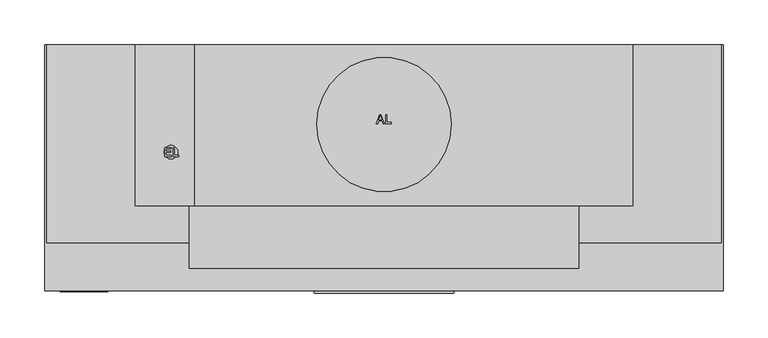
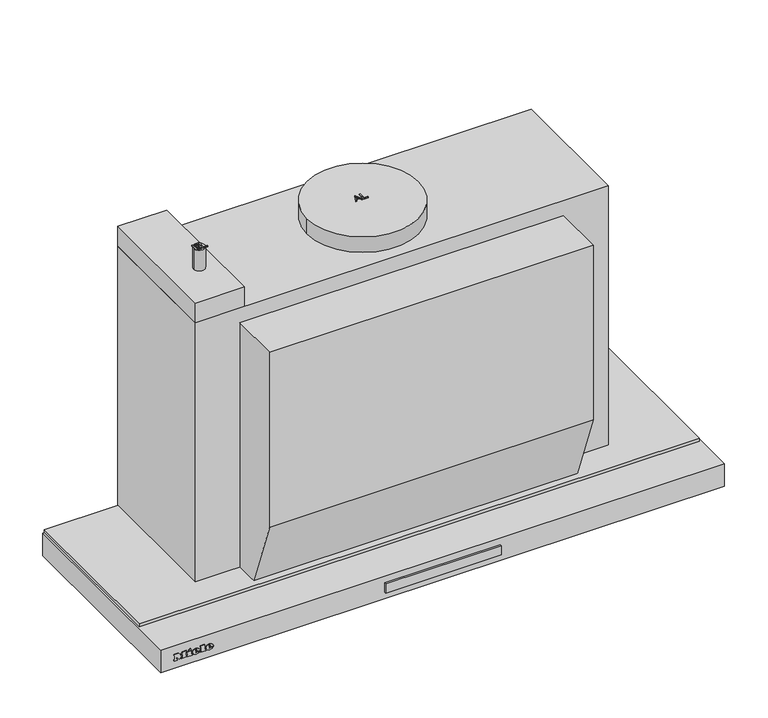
"""IFC4 building model written with IfcOpenShell, lengths in millimetres: proxy geometry, 11878520_USA_DAS4720_EDST : 28S4720S_USA_11878520_DAS4720_EDST."""

import ifcopenshell
import ifcopenshell.guid

model = None  # the IFC model being written
_history = None  # IfcOwnerHistory: only IFC2X3 demands one
_inside = {}  # id of a spatial element -> (the spatial element, [elements in it])
_under = {}  # id of a project, library or spatial element -> (it, [spatial elements below it])
_declared = {}  # id of a project -> (the project, [libraries it declares])
_typed = {}  # id of a type object -> (the type object, [elements of that type])
_made_of = {}  # id of a material, layer set ... -> (it, [elements and type objects made of it])


def new_model(schema):
    """Start an empty IFC model of exactly this schema.

    Asked for "IFC4X3", IfcOpenShell would pick the latest addendum, in which some entities
    have other attributes; the version numbers below select the first issue.
    IFC2X3 requires an IfcOwnerHistory on every rooted entity: one is made here for all.
    """
    global model, _history
    if schema == "IFC4X3":
        model = ifcopenshell.file(schema_version=(4, 3, 0, 0))
    else:
        model = ifcopenshell.file(schema=schema)
    _inside.clear()
    _under.clear()
    _declared.clear()
    _typed.clear()
    _made_of.clear()
    _history = None
    if model.schema == "IFC2X3":
        org = make("IfcOrganization", Name="unknown")
        user = make(
            "IfcPersonAndOrganization",
            ThePerson=make("IfcPerson", FamilyName="unknown"),
            TheOrganization=org,
        )
        app = make(
            "IfcApplication",
            ApplicationDeveloper=org,
            Version="unknown",
            ApplicationFullName="unknown",
            ApplicationIdentifier="unknown",
        )
        _history = make(
            "IfcOwnerHistory",
            OwningUser=user,
            OwningApplication=app,
            ChangeAction="ADDED",
            CreationDate=0,
        )
    return model


def make(cls, **values):
    """One entity of the class cls with the attributes given. An attribute that is None is left unset."""
    return model.create_entity(
        cls, **{name: value for name, value in values.items() if value is not None}
    )


def rooted(cls, **values):
    """An entity with a GlobalId (a new one), such as an element, a storey or a relation."""
    return make(cls, GlobalId=ifcopenshell.guid.new(), OwnerHistory=_history, **values)


def si_unit(unit_type, name, prefix=None):
    """IfcSIUnit, for example si_unit("LENGTHUNIT", "METRE", prefix="MILLI")."""
    return make("IfcSIUnit", UnitType=unit_type, Prefix=prefix, Name=name)


def assignment(units):
    """IfcUnitAssignment: the units of a project."""
    return None if units is None else make("IfcUnitAssignment", Units=units)


def point(xyz):
    """IfcCartesianPoint."""
    return None if xyz is None else make("IfcCartesianPoint", Coordinates=xyz)


def direction(xyz):
    """IfcDirection."""
    return None if xyz is None else make("IfcDirection", DirectionRatios=xyz)


def frame(location, z_axis=None, x_axis=None):
    """IfcAxis2Placement3D, a coordinate frame: its origin and axes. An axis left out is left unset."""
    return make(
        "IfcAxis2Placement3D",
        Location=point(location),
        Axis=direction(z_axis),
        RefDirection=direction(x_axis),
    )


def frame_2d(location, x_axis=None):
    """IfcAxis2Placement2D, a coordinate frame in the plane: its origin and x axis."""
    return make(
        "IfcAxis2Placement2D", Location=point(location), RefDirection=direction(x_axis)
    )


def origin():
    """The frame at (0, 0, 0) with its axes left unset."""
    return frame((0.0, 0.0, 0.0))


def origin_with_axes():
    """The frame at (0, 0, 0) with the z axis (0, 0, 1) and the x axis (1, 0, 0) written out."""
    return frame((0.0, 0.0, 0.0), z_axis=(0.0, 0.0, 1.0), x_axis=(1.0, 0.0, 0.0))


def place(relative_to, where):
    """IfcLocalPlacement: puts the frame where relative to a parent placement (None: the world)."""
    return make(
        "IfcLocalPlacement", PlacementRelTo=relative_to, RelativePlacement=where
    )


def context(
    kind, dimensions, precision=None, world=None, true_north=None, identifier=None
):
    """IfcGeometricRepresentationContext, for example the 3D "Model" context."""
    return make(
        "IfcGeometricRepresentationContext",
        ContextIdentifier=identifier,
        ContextType=kind,
        CoordinateSpaceDimension=dimensions,
        Precision=precision,
        WorldCoordinateSystem=world,
        TrueNorth=true_north,
    )


def project(units=None, contexts=None):
    """IfcProject with its units and contexts."""
    return rooted(
        "IfcProject",
        Name="project",
        RepresentationContexts=contexts,
        UnitsInContext=assignment(units),
    )


def spatial(cls, under=None, at=None, **own):
    """A site, building, storey or space (cls), placed at a placement, below another one or the project."""
    s = rooted(cls, ObjectPlacement=at, **own)
    if under is not None:
        _under.setdefault(under.id(), (under, []))[1].append(s)
    return s


def polyline(points):
    """IfcPolyline through the points."""
    return make("IfcPolyline", Points=[point(p) for p in points])


def circle_curve(where, radius):
    """IfcCircle in the frame where."""
    return make("IfcCircle", Position=where, Radius=radius)


def ellipse_curve(where, semi_axis1, semi_axis2):
    """IfcEllipse in the frame where."""
    return make(
        "IfcEllipse", Position=where, SemiAxis1=semi_axis1, SemiAxis2=semi_axis2
    )


def trimmed(basis, trim1, trim2, sense, master):
    """IfcTrimmedCurve: the piece of a basis curve between two trims."""
    return make(
        "IfcTrimmedCurve",
        BasisCurve=basis,
        Trim1=trim1,
        Trim2=trim2,
        SenseAgreement=sense,
        MasterRepresentation=master,
    )


def segment(curve, same_sense, transition):
    """IfcCompositeCurveSegment."""
    return make(
        "IfcCompositeCurveSegment",
        Transition=transition,
        SameSense=same_sense,
        ParentCurve=curve,
    )


def composite_curve(segments, self_intersect=None):
    """IfcCompositeCurve: segments joined end to end."""
    return make("IfcCompositeCurve", Segments=segments, SelfIntersect=self_intersect)


def outline(outer, holes=None, kind="AREA"):
    """IfcArbitraryClosedProfileDef: a profile drawn as a closed curve; with holes, ...WithVoids."""
    if holes is None:
        return make("IfcArbitraryClosedProfileDef", ProfileType=kind, OuterCurve=outer)
    return make(
        "IfcArbitraryProfileDefWithVoids",
        ProfileType=kind,
        OuterCurve=outer,
        InnerCurves=holes,
    )


def extrude(swept, where, along, depth):
    """IfcExtrudedAreaSolid: the profile swept, set in the frame where, extruded along a direction by depth."""
    return make(
        "IfcExtrudedAreaSolid",
        SweptArea=swept,
        Position=where,
        ExtrudedDirection=direction(along),
        Depth=depth,
    )


def faces_of(points, faces, orient=None, outer=None):
    """IfcFace entities. A face is a list of loops; a loop is a list of indices into points, from 0.

    orient and outer hold one flag for each loop. By default every Orientation is true, the
    first loop of a face is its IfcFaceOuterBound and the others are IfcFaceBound.
    """
    made = []
    for i, loops in enumerate(faces):
        bounds = []
        for j, loop in enumerate(loops):
            is_outer = j == 0 if outer is None else outer[i][j]
            bounds.append(
                make(
                    "IfcFaceOuterBound" if is_outer else "IfcFaceBound",
                    Bound=make("IfcPolyLoop", Polygon=[points[k] for k in loop]),
                    Orientation=True if orient is None else orient[i][j],
                )
            )
        made.append(make("IfcFace", Bounds=bounds))
    return made


def faceted_brep(points, faces, orient=None, outer=None, voids=None):
    """IfcFacetedBrep: a solid bounded by flat faces; with voids (closed shells), ...WithVoids."""
    shared = [point(p) for p in points]
    hull = make("IfcClosedShell", CfsFaces=faces_of(shared, faces, orient, outer))
    if voids is None:
        return make("IfcFacetedBrep", Outer=hull)
    return make(
        "IfcFacetedBrepWithVoids",
        Outer=hull,
        Voids=[
            make(cls, CfsFaces=faces_of(shared, fs, o, b)) for cls, fs, o, b in voids
        ],
    )


def shape(context_of_items, identifier, shape_type, items):
    """IfcShapeRepresentation: the items that make up one representation, for example the "Body"."""
    return make(
        "IfcShapeRepresentation",
        ContextOfItems=context_of_items,
        RepresentationIdentifier=identifier,
        RepresentationType=shape_type,
        Items=items,
    )


def source(mapping_origin, context_of_items, identifier, shape_type, items):
    """IfcRepresentationMap: a shape defined once, which mapped items show again and again."""
    return make(
        "IfcRepresentationMap",
        MappingOrigin=mapping_origin,
        MappedRepresentation=shape(context_of_items, identifier, shape_type, items),
    )


def transform(
    local_origin,
    x_axis=None,
    y_axis=None,
    z_axis=None,
    scale=None,
    scale2=None,
    scale3=None,
    uniform=True,
):
    """IfcCartesianTransformationOperator3D, or its non-uniform kind. x_axis, y_axis, z_axis: its Axis1, 2, 3."""
    if uniform:
        return make(
            "IfcCartesianTransformationOperator3D",
            Axis1=direction(x_axis),
            Axis2=direction(y_axis),
            LocalOrigin=point(local_origin),
            Scale=scale,
            Axis3=direction(z_axis),
        )
    return make(
        "IfcCartesianTransformationOperator3DnonUniform",
        Axis1=direction(x_axis),
        Axis2=direction(y_axis),
        LocalOrigin=point(local_origin),
        Scale=scale,
        Axis3=direction(z_axis),
        Scale2=scale2,
        Scale3=scale3,
    )


def mapped(mapping_source, mapping_target):
    """IfcMappedItem: shows the shape of a source again, moved by a transform."""
    return make(
        "IfcMappedItem", MappingSource=mapping_source, MappingTarget=mapping_target
    )


def made_of(thing, what):
    """Note that an element or type object is made of a material, layer set ...; save() writes the relation."""
    if what is not None:
        _made_of.setdefault(what.id(), (what, []))[1].append(thing)
    return thing


def element(
    cls,
    number,
    at=None,
    inside=None,
    cuts=None,
    type_object=None,
    material=None,
    context=None,
    identifier="Body",
    shape_type=None,
    held_by="IfcProductDefinitionShape",
    body=None,
    shapes=None,
    **own,
):
    """One element of the class cls, such as IfcWall. Its Tag is "e" and its number.

    at: its placement. inside: the storey or other place that contains it. cuts: it is an
    opening in that element (IfcRelVoidsElement). A single representation is given by context,
    identifier, shape_type and body (its items); several are given by shapes. held_by: the class
    of the entity that holds the representations. save() writes the other relations.
    """
    e = rooted(cls, Tag="e%d" % number, ObjectPlacement=at, **own)
    if body is not None:
        shapes = [shape(context, identifier, shape_type, body)]
    if shapes is not None:
        e.Representation = make(held_by, Representations=shapes)
    if inside is not None:
        _inside.setdefault(inside.id(), (inside, []))[1].append(e)
    if cuts is not None:
        rooted(
            "IfcRelVoidsElement", RelatingBuildingElement=cuts, RelatedOpeningElement=e
        )
    if type_object is not None:
        _typed.setdefault(type_object.id(), (type_object, []))[1].append(e)
    return made_of(e, material)


def aggregate(whole, parts):
    """IfcRelAggregates: a whole, such as a stair, and the parts it consists of."""
    return rooted("IfcRelAggregates", RelatingObject=whole, RelatedObjects=parts)


def save(model, path):
    """Write the relations noted so far, then the file.

    IfcRelAggregates (storeys below a building ...), IfcRelContainedInSpatialStructure (elements
    in a storey), IfcRelDefinesByType, IfcRelAssociatesMaterial and IfcRelDeclares: one each for
    every whole, place, type object, material and project.
    """
    for whole, parts in _under.values():
        aggregate(whole, parts)
    for where, things in _inside.values():
        rooted(
            "IfcRelContainedInSpatialStructure",
            RelatedElements=things,
            RelatingStructure=where,
        )
    for kind, things in _typed.values():
        rooted("IfcRelDefinesByType", RelatedObjects=things, RelatingType=kind)
    for what, things in _made_of.values():
        rooted("IfcRelAssociatesMaterial", RelatedObjects=things, RelatingMaterial=what)
    for by, libraries in _declared.values():
        rooted("IfcRelDeclares", RelatingContext=by, RelatedDefinitions=libraries)
    model.write(path)


def plane_surface(at):
    """IfcPlane: the flat surface through the origin of the frame at, square to its z axis."""
    return make("IfcPlane", Position=at)


def cylinder_surface(at, radius):
    """IfcCylindricalSurface: all points at the distance radius from the z axis of the frame at."""
    return make("IfcCylindricalSurface", Position=at, Radius=radius)


def revolved_surface(curve, axis_point, axis_direction):
    """IfcSurfaceOfRevolution: the curve turned about the line through axis_point along axis_direction."""
    return make(
        "IfcSurfaceOfRevolution",
        SweptCurve=make("IfcArbitraryOpenProfileDef", ProfileType="CURVE", Curve=curve),
        AxisPosition=make("IfcAxis1Placement", Location=point(axis_point), Axis=direction(axis_direction)),
    )


def extruded_surface(curve, direction_of_extrusion, depth):
    """IfcSurfaceOfLinearExtrusion: the curve pushed along a direction by depth."""
    return make(
        "IfcSurfaceOfLinearExtrusion",
        SweptCurve=make("IfcArbitraryOpenProfileDef", ProfileType="CURVE", Curve=curve),
        ExtrudedDirection=direction(direction_of_extrusion),
        Depth=depth,
    )


def advanced_brep(points, edges, surfaces, faces):
    """IfcAdvancedBrep: a solid bounded by faces that lie on surfaces and meet in shared edges.

    An edge is (start, end): straight between two places in points (the first is 0);
    or (start, end, curve); or (start, end, curve, False) where it runs against its curve.
    A face is (place in surfaces, loops), or (place, loops, False) where it looks against
    its surface's normal. A loop lists edges by number (the first is 1), with a minus sign
    where the edge is run from its end to its start. The first loop is the outer one.
    """
    corners = [point(p) for p in points]
    vertices = [make("IfcVertexPoint", VertexGeometry=c) for c in corners]
    made = []
    for start, end, *more in edges:
        made.append(
            make(
                "IfcEdgeCurve",
                EdgeStart=vertices[start],
                EdgeEnd=vertices[end],
                EdgeGeometry=more[0] if more else make("IfcPolyline", Points=[corners[start], corners[end]]),
                SameSense=more[1] if len(more) > 1 else True,
            )
        )
    hull = []
    for where, loops, *sense in faces:
        bounds = []
        for j, loop in enumerate(loops):
            ring = [make("IfcOrientedEdge", EdgeElement=made[abs(k) - 1], Orientation=k > 0) for k in loop]
            bounds.append(
                make(
                    "IfcFaceOuterBound" if j == 0 else "IfcFaceBound",
                    Bound=make("IfcEdgeLoop", EdgeList=ring),
                    Orientation=True,
                )
            )
        hull.append(make("IfcAdvancedFace", Bounds=bounds, FaceSurface=surfaces[where], SameSense=sense[0] if sense else True))
    return make("IfcAdvancedBrep", Outer=make("IfcClosedShell", CfsFaces=hull))


def specialty_equipment_79cfb4cb(model_context):
    return source(origin(), model_context, "Body", "SolidModel", [
        extrude(outline(polyline([(78.0, -275.0), (78.0, -277.3978707), (-78.0, -277.3978707), (-78.0, -275.0), (78.0, -275.0)])), frame((0.0, 0.0, -23.0389651), z_axis=(0.0, 0.0, 1.0), x_axis=(1.0, 0.0, 0.0)), (0.0, 0.0, 1.0), 13.3389155),
        advanced_brep(
        [(-314.4590019, -276.0, -18.7681017), (-314.4590019, -276.0, -17.8894017), (-308.6387019, -276.0, -17.8894017), (-318.7655019, -276.0, -17.8894017), (-316.3730019, -276.0, -20.8300017), (-308.7866019, -276.0, -18.7681017), (-311.4140019, -276.0, -18.7681017), (-313.4846019, -276.0, -19.7425017), (-314.4590019, -276.0, -16.7758017), (-314.4590019, -276.0, -15.8275017), (-312.9713019, -276.0, -15.8275017), (-312.9713019, -276.0, -16.7758017), (-314.4590019, -275.0, -18.7681017), (-313.4846019, -275.0, -19.7425017), (-311.4140019, -275.0, -18.7681017), (-308.7866019, -275.0, -18.7681017), (-316.3730019, -275.0, -20.8300017), (-318.7655019, -275.0, -17.8894017), (-308.6387019, -275.0, -17.8894017), (-314.4590019, -275.0, -17.8894017), (-314.4590019, -275.0, -16.7758017), (-312.9713019, -275.0, -16.7758017), (-312.9713019, -275.0, -15.8275017), (-314.4590019, -275.0, -15.8275017)],
        [
            (0, 1),
            (1, 2),
            (2, 3, ellipse_curve(frame((-313.7021019, -276.0, -17.8894017), z_axis=(0.0, -1.0, 0.0), x_axis=(-1.0, 0.0, 0.0)), 5.0634, 4.1847)),
            (3, 4, circle_curve(frame((-315.3985544, -276.0, -17.5936017), z_axis=(0.0, -1.0, 0.0), x_axis=(0.0, 0.0, -1.0)), 3.3799161)),
            (4, 5, circle_curve(frame((-313.8034638, -276.0, -15.2968017), z_axis=(0.0, -1.0, 0.0), x_axis=(0.0, 0.0, -1.0)), 6.1007236)),
            (5, 6),
            (6, 7, circle_curve(frame((-313.0593254, -276.0, -17.9590017), z_axis=(0.0, 1.0, 0.0), x_axis=(0.0, 0.0, -1.0)), 1.8335027)),
            (7, 0, circle_curve(frame((-313.4846019, -276.0, -18.7681017), z_axis=(0.0, 1.0, 0.0), x_axis=(0.0, 0.0, -1.0)), 0.9744)),
            (8, 9),
            (9, 10, circle_curve(frame((-313.7151519, -276.0, -15.8275017), z_axis=(0.0, 1.0, 0.0), x_axis=(0.0, 0.0, -1.0)), 0.74385)),
            (10, 11),
            (11, 8),
            (12, 13, circle_curve(frame((-313.4846019, -275.0, -18.7681017), z_axis=(0.0, -1.0, 0.0), x_axis=(0.0, 0.0, -1.0)), 0.9744)),
            (13, 14, circle_curve(frame((-313.0593254, -275.0, -17.9590017), z_axis=(0.0, -1.0, 0.0), x_axis=(0.0, 0.0, -1.0)), 1.8335027)),
            (14, 15),
            (15, 16, circle_curve(frame((-313.8034638, -275.0, -15.2968017), z_axis=(0.0, 1.0, 0.0), x_axis=(0.0, 0.0, -1.0)), 6.1007236)),
            (16, 17, circle_curve(frame((-315.3985544, -275.0, -17.5936017), z_axis=(0.0, 1.0, 0.0), x_axis=(0.0, 0.0, -1.0)), 3.3799161)),
            (17, 18, ellipse_curve(frame((-313.7021019, -275.0, -17.8894017), z_axis=(0.0, 1.0, 0.0), x_axis=(-1.0, 0.0, 0.0)), 5.0634, 4.1847)),
            (18, 19),
            (19, 12),
            (20, 21),
            (21, 22),
            (22, 23, circle_curve(frame((-313.7151519, -275.0, -15.8275017), z_axis=(0.0, -1.0, 0.0), x_axis=(0.0, 0.0, -1.0)), 0.74385)),
            (23, 20),
            (0, 12),
            (19, 1),
            (18, 2),
            (5, 15),
            (14, 6),
            (17, 3),
            (13, 7),
            (16, 4),
            (8, 20),
            (23, 9),
            (22, 10),
            (21, 11),
        ],
        [
            plane_surface(frame((-314.4590019, -276.0, -17.8894017), z_axis=(0.0, -1.0, 0.0), x_axis=(0.0, 0.0, 1.0))),
            plane_surface(frame((-314.4590019, -275.0, -17.8894017), z_axis=(0.0, 1.0, 0.0), x_axis=(0.0, 0.0, -1.0))),
            plane_surface(frame((-314.4590019, -276.0, -18.7681017), z_axis=(1.0, 0.0, 0.0), x_axis=(0.0, 1.0, 0.0))),
            plane_surface(frame((-314.4590019, -276.0, -17.8894017), z_axis=(0.0, 0.0, -1.0), x_axis=(0.0, 1.0, 0.0))),
            plane_surface(frame((-308.7866019, -276.0, -18.7681017), z_axis=(0.0, 0.0, 1.0), x_axis=(0.0, 1.0, 0.0))),
            extruded_surface(trimmed(ellipse_curve(frame((-313.7021019, -274.0, -17.8894017), z_axis=(0.0, -1.0, 0.0), x_axis=(-1.0, 0.0, 0.0)), 5.0634, 4.1847), [point((-308.6387019, -274.0, -17.8894017))], [point((-318.7655019, -274.0, -17.8894017))], True, "CARTESIAN"), (0.0, -1.0, 0.0), 1.0),
            revolved_surface(polyline([(-313.0593254, -275.0, -19.792504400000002), (-313.0593254, -276.0, -19.792504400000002)]), (-313.0593254, -275.0, -17.9590017), (0.0, 1.0, 0.0)),
            revolved_surface(polyline([(-313.4846019, -275.0, -19.7425017), (-313.4846019, -276.0, -19.7425017)]), (-313.4846019, -275.0, -18.7681017), (0.0, 1.0, 0.0)),
            cylinder_surface(frame((-315.3985544, -275.0, -17.5936017), z_axis=(0.0, -1.0, 0.0), x_axis=(0.0, 0.0, -1.0)), 3.3799161),
            cylinder_surface(frame((-313.8034638, -275.0, -15.2968017), z_axis=(0.0, -1.0, 0.0), x_axis=(0.0, 0.0, -1.0)), 6.1007236),
            plane_surface(frame((-314.4590019, -276.0, -16.7758017), z_axis=(1.0, 0.0, 0.0), x_axis=(0.0, 1.0, 0.0))),
            revolved_surface(polyline([(-313.7151519, -275.0, -16.571351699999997), (-313.7151519, -276.0, -16.571351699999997)]), (-313.7151519, -275.0, -15.8275017), (0.0, 1.0, 0.0)),
            plane_surface(frame((-312.9713019, -276.0, -15.8275017), z_axis=(-1.0, 0.0, 0.0), x_axis=(0.0, 1.0, 0.0))),
            plane_surface(frame((-312.9713019, -276.0, -16.7758017), z_axis=(0.0, 0.0, 1.0), x_axis=(0.0, 1.0, 0.0))),
        ],
        [
            (0, [[1, 2, 3, 4, 5, 6, 7, 8], [9, 10, 11, 12]]),
            (1, [[13, 14, 15, 16, 17, 18, 19, 20], [21, 22, 23, 24]]),
            (2, [[-1, 25, -20, 26]]),
            (3, [[-2, -26, -19, 27]]),
            (4, [[-6, 28, -15, 29]]),
            (5, [[-3, -27, -18, 30]]),
            (6, [[-7, -29, -14, 31]]),
            (7, [[-8, -31, -13, -25]]),
            (8, [[-4, -30, -17, 32]]),
            (9, [[-5, -32, -16, -28]]),
            (10, [[-9, 33, -24, 34]]),
            (11, [[-10, -34, -23, 35]]),
            (12, [[-11, -35, -22, 36]]),
            (13, [[-12, -36, -21, -33]]),
        ],
    ),
        advanced_brep(
        [(-332.6159019, -276.0, -18.7681017), (-332.6159019, -276.0, -17.8894017), (-326.7956019, -276.0, -17.8894017), (-336.9224019, -276.0, -17.8894017), (-334.5299019, -276.0, -20.8300017), (-326.9435019, -276.0, -18.7681017), (-329.5709019, -276.0, -18.7681017), (-331.6415019, -276.0, -19.7425017), (-332.6159019, -276.0, -16.7758017), (-332.6159019, -276.0, -15.8275017), (-331.1282019, -276.0, -15.8275017), (-331.1282019, -276.0, -16.7758017), (-332.6159019, -275.0, -18.7681017), (-331.6415019, -275.0, -19.7425017), (-329.5709019, -275.0, -18.7681017), (-326.9435019, -275.0, -18.7681017), (-334.5299019, -275.0, -20.8300017), (-336.9224019, -275.0, -17.8894017), (-326.7956019, -275.0, -17.8894017), (-332.6159019, -275.0, -17.8894017), (-332.6159019, -275.0, -16.7758017), (-331.1282019, -275.0, -16.7758017), (-331.1282019, -275.0, -15.8275017), (-332.6159019, -275.0, -15.8275017)],
        [
            (0, 1),
            (1, 2),
            (2, 3, ellipse_curve(frame((-331.8590019, -276.0, -17.8894017), z_axis=(0.0, -1.0, 0.0), x_axis=(-1.0, 0.0, 0.0)), 5.0634, 4.1847)),
            (3, 4, circle_curve(frame((-333.5554544, -276.0, -17.5936017), z_axis=(0.0, -1.0, 0.0), x_axis=(0.0, 0.0, -1.0)), 3.3799161)),
            (4, 5, circle_curve(frame((-331.9603638, -276.0, -15.2968017), z_axis=(0.0, -1.0, 0.0), x_axis=(0.0, 0.0, -1.0)), 6.1007236)),
            (5, 6),
            (6, 7, circle_curve(frame((-331.2162254, -276.0, -17.9590017), z_axis=(0.0, 1.0, 0.0), x_axis=(0.0, 0.0, -1.0)), 1.8335027)),
            (7, 0, circle_curve(frame((-331.6415019, -276.0, -18.7681017), z_axis=(0.0, 1.0, 0.0), x_axis=(0.0, 0.0, -1.0)), 0.9744)),
            (8, 9),
            (9, 10, circle_curve(frame((-331.8720519, -276.0, -15.8275017), z_axis=(0.0, 1.0, 0.0), x_axis=(0.0, 0.0, -1.0)), 0.74385)),
            (10, 11),
            (11, 8),
            (12, 13, circle_curve(frame((-331.6415019, -275.0, -18.7681017), z_axis=(0.0, -1.0, 0.0), x_axis=(0.0, 0.0, -1.0)), 0.9744)),
            (13, 14, circle_curve(frame((-331.2162254, -275.0, -17.9590017), z_axis=(0.0, -1.0, 0.0), x_axis=(0.0, 0.0, -1.0)), 1.8335027)),
            (14, 15),
            (15, 16, circle_curve(frame((-331.9603638, -275.0, -15.2968017), z_axis=(0.0, 1.0, 0.0), x_axis=(0.0, 0.0, -1.0)), 6.1007236)),
            (16, 17, circle_curve(frame((-333.5554544, -275.0, -17.5936017), z_axis=(0.0, 1.0, 0.0), x_axis=(0.0, 0.0, -1.0)), 3.3799161)),
            (17, 18, ellipse_curve(frame((-331.8590019, -275.0, -17.8894017), z_axis=(0.0, 1.0, 0.0), x_axis=(-1.0, 0.0, 0.0)), 5.0634, 4.1847)),
            (18, 19),
            (19, 12),
            (20, 21),
            (21, 22),
            (22, 23, circle_curve(frame((-331.8720519, -275.0, -15.8275017), z_axis=(0.0, -1.0, 0.0), x_axis=(0.0, 0.0, -1.0)), 0.74385)),
            (23, 20),
            (0, 12),
            (19, 1),
            (18, 2),
            (5, 15),
            (14, 6),
            (17, 3),
            (13, 7),
            (16, 4),
            (8, 20),
            (23, 9),
            (22, 10),
            (21, 11),
        ],
        [
            plane_surface(frame((-332.6159019, -276.0, -17.8894017), z_axis=(0.0, -1.0, 0.0), x_axis=(0.0, 0.0, 1.0))),
            plane_surface(frame((-332.6159019, -275.0, -17.8894017), z_axis=(0.0, 1.0, 0.0), x_axis=(0.0, 0.0, -1.0))),
            plane_surface(frame((-332.6159019, -276.0, -18.7681017), z_axis=(1.0, 0.0, 0.0), x_axis=(0.0, 1.0, 0.0))),
            plane_surface(frame((-332.6159019, -276.0, -17.8894017), z_axis=(0.0, 0.0, -1.0), x_axis=(0.0, 1.0, 0.0))),
            plane_surface(frame((-326.9435019, -276.0, -18.7681017), z_axis=(0.0, 0.0, 1.0), x_axis=(0.0, 1.0, 0.0))),
            extruded_surface(trimmed(ellipse_curve(frame((-331.8590019, -274.0, -17.8894017), z_axis=(0.0, -1.0, 0.0), x_axis=(-1.0, 0.0, 0.0)), 5.0634, 4.1847), [point((-326.7956019, -274.0, -17.8894017))], [point((-336.9224019, -274.0, -17.8894017))], True, "CARTESIAN"), (0.0, -1.0, 0.0), 1.0),
            revolved_surface(polyline([(-331.2162254, -275.0, -19.792504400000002), (-331.2162254, -276.0, -19.792504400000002)]), (-331.2162254, -275.0, -17.9590017), (0.0, 1.0, 0.0)),
            revolved_surface(polyline([(-331.6415019, -275.0, -19.7425017), (-331.6415019, -276.0, -19.7425017)]), (-331.6415019, -275.0, -18.7681017), (0.0, 1.0, 0.0)),
            cylinder_surface(frame((-333.5554544, -275.0, -17.5936017), z_axis=(0.0, -1.0, 0.0), x_axis=(0.0, 0.0, -1.0)), 3.3799161),
            cylinder_surface(frame((-331.9603638, -275.0, -15.2968017), z_axis=(0.0, -1.0, 0.0), x_axis=(0.0, 0.0, -1.0)), 6.1007236),
            plane_surface(frame((-332.6159019, -276.0, -16.7758017), z_axis=(1.0, 0.0, 0.0), x_axis=(0.0, 1.0, 0.0))),
            revolved_surface(polyline([(-331.8720519, -275.0, -16.571351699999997), (-331.8720519, -276.0, -16.571351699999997)]), (-331.8720519, -275.0, -15.8275017), (0.0, 1.0, 0.0)),
            plane_surface(frame((-331.1282019, -276.0, -15.8275017), z_axis=(-1.0, 0.0, 0.0), x_axis=(0.0, 1.0, 0.0))),
            plane_surface(frame((-331.1282019, -276.0, -16.7758017), z_axis=(0.0, 0.0, 1.0), x_axis=(0.0, 1.0, 0.0))),
        ],
        [
            (0, [[1, 2, 3, 4, 5, 6, 7, 8], [9, 10, 11, 12]]),
            (1, [[13, 14, 15, 16, 17, 18, 19, 20], [21, 22, 23, 24]]),
            (2, [[-1, 25, -20, 26]]),
            (3, [[-2, -26, -19, 27]]),
            (4, [[-6, 28, -15, 29]]),
            (5, [[-3, -27, -18, 30]]),
            (6, [[-7, -29, -14, 31]]),
            (7, [[-8, -31, -13, -25]]),
            (8, [[-4, -30, -17, 32]]),
            (9, [[-5, -32, -16, -28]]),
            (10, [[-9, 33, -24, 34]]),
            (11, [[-10, -34, -23, 35]]),
            (12, [[-11, -35, -22, 36]]),
            (13, [[-12, -36, -21, -33]]),
        ],
    ),
        extrude(outline(polyline([(-12.6433017, -342.1250019), (-14.0527017, -341.4638019), (-12.6781017, -338.5145019), (-11.2687017, -339.1670019), (-12.6433017, -342.1250019)])), frame((0.0, -276.0, 0.0), z_axis=(0.0, 1.0, 0.0), x_axis=(0.0, 0.0, 1.0)), (0.0, 0.0, 1.0), 1.0),
        extrude(outline(polyline([(-14.2441017, -344.2739019), (-15.8014017, -344.2739019), (-15.8014017, -343.2386019), (-19.3684017, -343.2386019), (-19.3684017, -344.2739019), (-20.8300017, -344.2739019), (-20.8300017, -337.4096019), (-19.3684017, -337.4096019), (-19.3684017, -338.4188019), (-14.2441017, -338.4188019), (-14.2441017, -344.2739019)])), frame((0.0, -276.0, 0.0), z_axis=(0.0, 1.0, 0.0), x_axis=(0.0, 0.0, 1.0)), (0.0, 0.0, 1.0), 1.0),
        extrude(outline(polyline([(-13.5481017, -326.3084019), (-13.5481017, -325.2644019), (-19.3684017, -325.2644019), (-19.3684017, -326.3084019), (-20.8300017, -326.3084019), (-20.8300017, -319.2527019), (-19.3684017, -319.2527019), (-19.3684017, -320.3228019), (-12.1300017, -320.3228019), (-12.1300017, -326.3084019), (-13.5481017, -326.3084019)])), frame((0.0, -276.0, 0.0), z_axis=(0.0, 1.0, 0.0), x_axis=(0.0, 0.0, 1.0)), (0.0, 0.0, 1.0), 1.0),
        extrude(outline(polyline([(-13.5481017, -361.6130019), (-13.5481017, -360.5603019), (-19.3684017, -360.5603019), (-19.3684017, -361.6130019), (-20.8300017, -361.6130019), (-20.8300017, -357.7850019), (-19.3684017, -357.7850019), (-19.3684017, -358.8290019), (-15.6719769, -358.8290019), (-20.8300017, -354.9401019), (-15.5772794, -351.0338019), (-19.3684017, -351.0338019), (-19.3684017, -352.1039019), (-20.8300017, -352.1039019), (-20.8300017, -345.1613019), (-19.3684017, -345.1613019), (-19.3684017, -346.2662019), (-13.5481017, -346.2662019), (-13.5481017, -345.1613019), (-12.1300017, -345.1613019), (-12.1300017, -350.4596019), (-15.3925017, -353.0000019), (-12.1300017, -355.5491019), (-12.1300017, -361.6130019), (-13.5481017, -361.6130019)])), frame((0.0, -276.0, 0.0), z_axis=(0.0, 1.0, 0.0), x_axis=(0.0, 0.0, 1.0)), (0.0, 0.0, 1.0), 1.0),
        extrude(outline(polyline([(120.0, -19.25), (120.0, -31.75), (-120.0, -31.75), (-120.0, -19.25), (120.0, -19.25)])), frame((0.0, 0.0, -23.0), z_axis=(0.0, 0.0, 1.0), x_axis=(1.0, 0.0, 0.0)), (0.0, 0.0, 1.0), 1.785426),
        extrude(outline(polyline([(377.0, 0.0), (377.0, -221.0), (-377.0, -221.0), (-377.0, 0.0), (377.0, 0.0)])), origin_with_axes(), (0.0, 0.0, 1.0), 4.0),
        extrude(outline(polyline([(-8.547125, -87.975609), (-4.5372113, -77.929978), (-3.4679009, -77.929978), (0.5420128, -87.975609), (-0.7848149, -87.975609), (-1.9350593, -84.8363493), (-6.0725055, -84.8363493), (-7.2202973, -87.975609), (-8.547125, -87.975609)]), holes=[polyline([(-5.6114267, -83.5806455), (-2.3936855, -83.5806455), (-3.2986752, -81.110931), (-4.0025561, -79.1856819), (-4.6279555, -80.8951069), (-5.6114267, -83.5806455)])]), frame((0.0, 0.0, 395.0), z_axis=(0.0, 0.0, 1.0), x_axis=(1.0, 0.0, 0.0)), (0.0, 0.0, 1.0), 1.0),
        extrude(outline(polyline([(1.8835558, -87.975609), (1.8835558, -77.929978), (3.1392597, -77.929978), (3.1392597, -86.7199052), (8.1620752, -86.7199052), (8.1620752, -87.975609), (1.8835558, -87.975609)])), frame((0.0, 0.0, 395.0), z_axis=(0.0, 0.0, 1.0), x_axis=(1.0, 0.0, 0.0)), (0.0, 0.0, 1.0), 1.0),
        extrude(outline(polyline([(-180.0, 352.0), (-180.0, 4.0), (-211.7966838, 4.0), (-249.5, 103.2192532), (-249.5, 352.0), (-180.0, 352.0)])), frame((-217.7156244, 0.0, 0.0), z_axis=(1.0, 0.0, 0.0), x_axis=(0.0, 1.0, 0.0)), (0.0, 0.0, 1.0), 435.4312488),
        faceted_brep([(379.0, 0.0, -32.0), (379.0, -275.0, -32.0), (-379.0, -275.0, -32.0), (-379.0, 0.0, -32.0), (-344.0, 0.0, -32.0), (-344.0, -242.0, -32.0), (344.0, -242.0, -32.0), (344.0, 0.0, -32.0), (379.0, 0.0, 0.0), (-379.0, 0.0, 0.0), (-379.0, -275.0, 0.0), (379.0, -275.0, 0.0), (344.0, 0.0, -24.0), (-344.0, 0.0, -24.0), (344.0, -242.0, -25.0), (-344.0, -242.0, -25.0), (-344.0, -52.0, -25.0), (344.0, -52.0, -25.0), (-344.0, -52.0, -24.0), (344.0, -52.0, -24.0), (126.0, -12.0, -24.0), (-126.0, -12.0, -24.0), (-126.0, -39.0, -24.0), (126.0, -39.0, -24.0), (126.0, -12.0, -21.214574), (126.0, -39.0, -21.214574), (-126.0, -39.0, -21.214574), (-126.0, -12.0, -21.214574)], [[[0, 1, 2, 3, 4, 5, 6, 7]], [[8, 9, 10, 11]], [[9, 8, 0, 7, 12, 13, 4, 3]], [[3, 2, 10, 9]], [[2, 1, 11, 10]], [[1, 0, 8, 11]], [[14, 15, 16, 17]], [[15, 5, 4, 13, 18, 16]], [[15, 14, 6, 5]], [[6, 14, 17, 19, 12, 7]], [[12, 19, 18, 13], [20, 21, 22, 23]], [[18, 19, 17, 16]], [[24, 25, 26, 27]], [[24, 27, 21, 20]], [[27, 26, 22, 21]], [[26, 25, 23, 22]], [[25, 24, 20, 23]]]),
        extrude(outline(polyline([(-278.0, -180.0), (-278.0, 0.0), (-212.0, 0.0), (-212.0, -180.0), (-278.0, -180.0)])), frame((0.0, 0.0, 373.0), z_axis=(0.0, 0.0, 1.0), x_axis=(1.0, 0.0, 0.0)), (0.0, 0.0, 1.0), 28.0),
        extrude(outline(composite_curve([segment(trimmed(circle_curve(frame_2d((0.0, -89.0)), 75.0), [point((-75.0, -89.0))], [point((75.0, -89.0))], False, "CARTESIAN"), True, "CONTINUOUS"), segment(trimmed(circle_curve(frame_2d((0.0, -89.0)), 75.0), [point((75.0, -89.0))], [point((-75.0, -89.0))], False, "CARTESIAN"), True, "CONTINUOUS")], self_intersect=False)), frame((0.0, 0.0, 373.0), z_axis=(0.0, 0.0, 1.0), x_axis=(1.0, 0.0, 0.0)), (0.0, 0.0, 1.0), 22.0),
        extrude(outline(polyline([(278.0, -180.0), (-278.0, -180.0), (-278.0, 0.0), (278.0, 0.0), (278.0, -180.0)])), frame((0.0, 0.0, 4.0), z_axis=(0.0, 0.0, 1.0), x_axis=(1.0, 0.0, 0.0)), (0.0, 0.0, 1.0), 369.0),
        extrude(outline(polyline([(-244.9012591, -124.9184735), (-244.9012591, -114.8728425), (-237.6809618, -114.8728425), (-237.6809618, -116.1285464), (-243.6455552, -116.1285464), (-243.6455552, -119.1108431), (-237.9948878, -119.1108431), (-237.9948878, -120.366547), (-243.6455552, -120.366547), (-243.6455552, -123.6627696), (-237.5239988, -123.6627696), (-237.5239988, -124.9184735), (-244.9012591, -124.9184735)])), frame((0.0, 0.0, 431.0), z_axis=(0.0, 0.0, 1.0), x_axis=(1.0, 0.0, 0.0)), (0.0, 0.0, 1.0), 1.0),
        extrude(outline(polyline([(-235.640443, -124.9184735), (-235.640443, -114.8728425), (-234.3847391, -114.8728425), (-234.3847391, -123.6627696), (-229.3619236, -123.6627696), (-229.3619236, -124.9184735), (-235.640443, -124.9184735)])), frame((0.0, 0.0, 431.0), z_axis=(0.0, 0.0, 1.0), x_axis=(1.0, 0.0, 0.0)), (0.0, 0.0, 1.0), 1.0),
        extrude(outline(composite_curve([segment(trimmed(circle_curve(frame_2d((-238.0, -120.0)), 7.5), [point((-230.5, -120.0))], [point((-245.5, -120.0))], False, "CARTESIAN"), True, "CONTINUOUS"), segment(trimmed(circle_curve(frame_2d((-238.0, -120.0)), 7.5), [point((-245.5, -120.0))], [point((-230.5, -120.0))], False, "CARTESIAN"), True, "CONTINUOUS")], self_intersect=False)), frame((0.0, 0.0, 401.0), z_axis=(0.0, 0.0, 1.0), x_axis=(1.0, 0.0, 0.0)), (0.0, 0.0, 1.0), 30.0),
        extrude(outline(polyline([(262.0813184, -268.0), (262.0813184, -246.0), (330.0, -246.0), (330.0, -268.0), (262.0813184, -268.0)])), frame((0.0, 0.0, -33.3019181), z_axis=(0.0, 0.0, 1.0), x_axis=(1.0, 0.0, 0.0)), (0.0, 0.0, 1.0), 1.3019181),
        extrude(outline(polyline([(-330.0, -268.0), (-330.0, -246.0), (-262.0, -246.0), (-262.0, -268.0), (-330.0, -268.0)])), frame((0.0, 0.0, -33.3019181), z_axis=(0.0, 0.0, 1.0), x_axis=(1.0, 0.0, 0.0)), (0.0, 0.0, 1.0), 1.3019181),
    ])


if __name__ == "__main__":
    model = new_model("IFC4")
    model_context = context("Model", 3, world=origin())
    ifc_project = project(units=[si_unit("LENGTHUNIT", "METRE", prefix="MILLI")], contexts=[model_context])
    site = spatial("IfcSite", under=ifc_project)
    building = spatial("IfcBuilding", under=site)
    placement = place(None, origin())
    specialty_equipment_shape = specialty_equipment_79cfb4cb(model_context)
    element("IfcBuildingElementProxy", 1, Name="11878520_USA_DAS4720_EDST : 28S4720S_USA_11878520_DAS4720_EDST", ObjectType="11878520_USA_DAS4720_EDST : 28S4720S_USA_11878520_DAS4720_EDST", at=placement, inside=building, context=model_context, shape_type="MappedRepresentation", body=[
        mapped(specialty_equipment_shape, transform((0.0, 0.0, 0.0), x_axis=(1.0, 0.0, 0.0), y_axis=(0.0, 1.0, 0.0), z_axis=(0.0, 0.0, 1.0))),
    ])
    save(model, "model.ifc")
